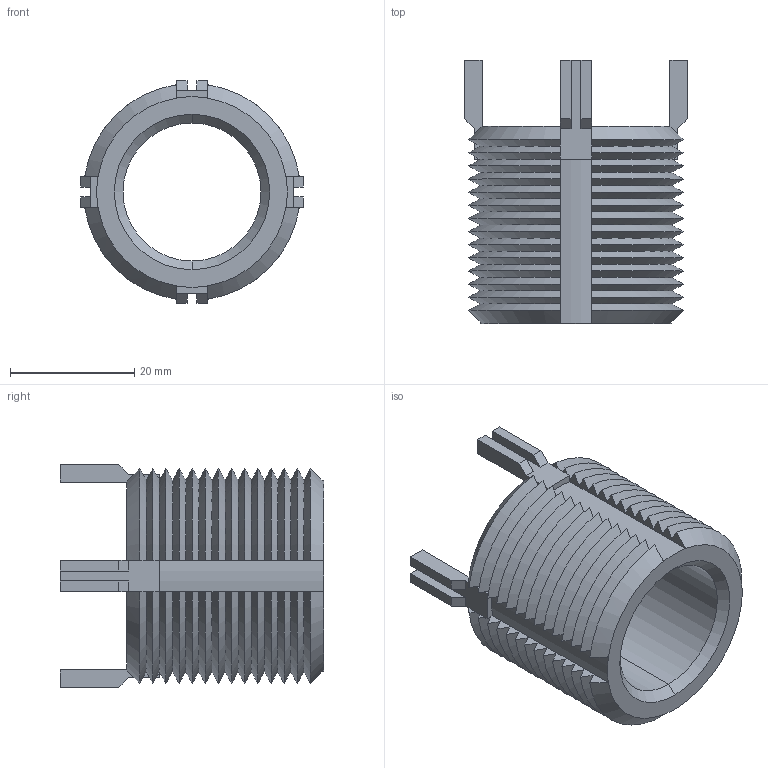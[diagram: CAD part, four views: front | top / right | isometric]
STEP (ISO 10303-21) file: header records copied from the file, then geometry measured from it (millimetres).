
FILE_DESCRIPTION (( 'STEP AP203' ), '1' );
FILE_NAME ('22024.W5420.step', '2020-01-04T21:59:48', ( '' ), ( '' ), 'SwSTEP 2.0', 'SolidWorks 2017', '' );
FILE_SCHEMA (( 'CONFIG_CONTROL_DESIGN' ));
Length unit declared in the file: millimetre
Products named in the file (1): 22024.W5420
Bounding box: 35.88 x 42.4 x 35.88 mm (x, y, z)
Volume: 14649.2 mm3; surface area: 9699.5 mm2
Topology: 1 solids, 1 shells, 212 faces, 570 edges, 360 vertices
Faces by surface type: cone 116, plane 90, cylinder 6
Entity records: 7515 total; most frequent: CARTESIAN_POINT 2559, ORIENTED_EDGE 1140, DIRECTION 864, EDGE_CURVE 570, VERTEX_POINT 360, AXIS2_PLACEMENT_3D 345, B_SPLINE_CURVE_WITH_KNOTS 264, EDGE_LOOP 214
